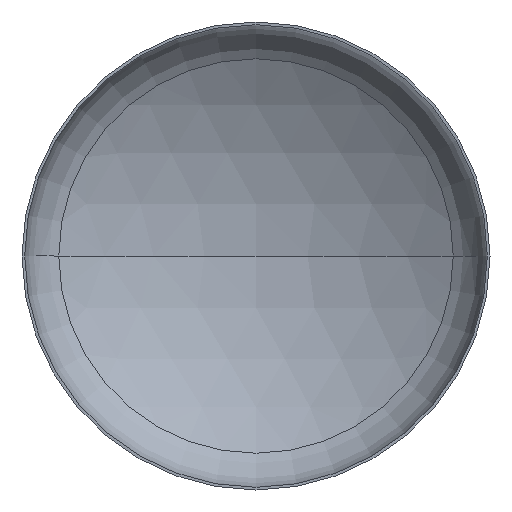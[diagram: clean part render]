
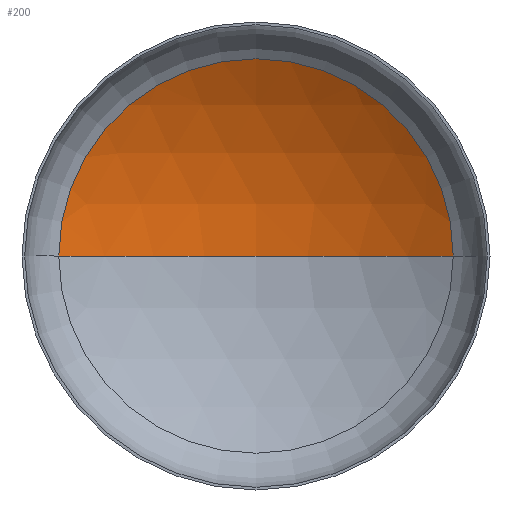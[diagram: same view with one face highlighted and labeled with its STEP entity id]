
A CAD part, front view. The second image highlights one B-rep face of the part: STEP entity #200.
In plain terms, the highlighted spherical face has radius 2080 mm.
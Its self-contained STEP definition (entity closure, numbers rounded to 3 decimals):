
#16 = VERTEX_POINT ( 'NONE', #199 ) ;
#25 = VERTEX_POINT ( 'NONE', #294 ) ;
#30 = DIRECTION ( 'NONE',  ( 1., 0., 0. ) ) ;
#31 = AXIS2_PLACEMENT_3D ( 'NONE', #196, #173, #141 ) ;
#37 = AXIS2_PLACEMENT_3D ( 'NONE', #324, #187, #283 ) ;
#38 = ORIENTED_EDGE ( 'NONE', *, *, #91, .F. ) ;
#40 = DIRECTION ( 'NONE',  ( 0., -1., 0. ) ) ;
#41 = AXIS2_PLACEMENT_3D ( 'NONE', #229, #363, #284 ) ;
#44 = AXIS2_PLACEMENT_3D ( 'NONE', #70, #40, #30 ) ;
#57 = EDGE_LOOP ( 'NONE', ( #38, #104, #164 ) ) ;
#70 = CARTESIAN_POINT ( 'NONE',  ( 0., 384.999, 0. ) ) ;
#87 = EDGE_CURVE ( 'NONE', #16, #25, #301, .T. ) ;
#88 = EDGE_CURVE ( 'NONE', #109, #16, #354, .T. ) ;
#91 = EDGE_CURVE ( 'NONE', #109, #25, #411, .T. ) ;
#104 = ORIENTED_EDGE ( 'NONE', *, *, #88, .T. ) ;
#109 = VERTEX_POINT ( 'NONE', #111 ) ;
#111 = CARTESIAN_POINT ( 'NONE',  ( 0., 697.003, 0. ) ) ;
#141 = DIRECTION ( 'NONE',  ( -1., 0., 0. ) ) ;
#164 = ORIENTED_EDGE ( 'NONE', *, *, #87, .T. ) ;
#173 = DIRECTION ( 'NONE',  ( 0., 0., -1. ) ) ;
#175 = FACE_OUTER_BOUND ( 'NONE', #57, .T. ) ;
#187 = DIRECTION ( 'NONE',  ( 0., 0., 1. ) ) ;
#196 = CARTESIAN_POINT ( 'NONE',  ( 0., -1382.997, 0. ) ) ;
#199 = CARTESIAN_POINT ( 'NONE',  ( 1095.714, 384.999, 0. ) ) ;
#200 = ADVANCED_FACE ( 'NONE', ( #175 ), #227, .F. ) ;
#227 = SPHERICAL_SURFACE ( 'NONE', #31, 2080. ) ;
#229 = CARTESIAN_POINT ( 'NONE',  ( 0., -1382.997, 0. ) ) ;
#283 = DIRECTION ( 'NONE',  ( 1., 0., 0. ) ) ;
#284 = DIRECTION ( 'NONE',  ( -1., 0., 0. ) ) ;
#294 = CARTESIAN_POINT ( 'NONE',  ( -1095.714, 384.999, 0. ) ) ;
#301 = CIRCLE ( 'NONE', #44, 1095.714 ) ;
#324 = CARTESIAN_POINT ( 'NONE',  ( 0., -1382.997, 0. ) ) ;
#354 = CIRCLE ( 'NONE', #41, 2080. ) ;
#363 = DIRECTION ( 'NONE',  ( 0., 0., -1. ) ) ;
#411 = CIRCLE ( 'NONE', #37, 2080. ) ;
